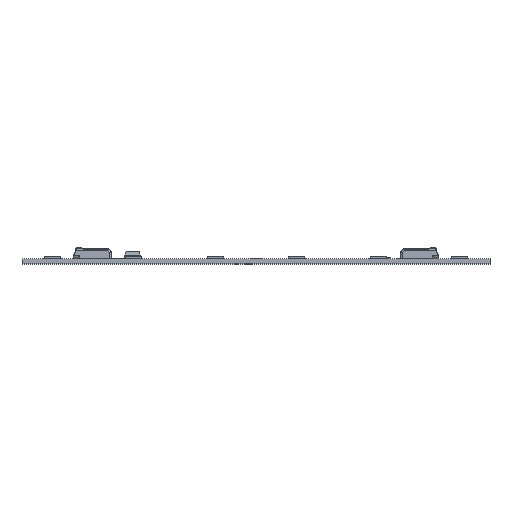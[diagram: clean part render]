
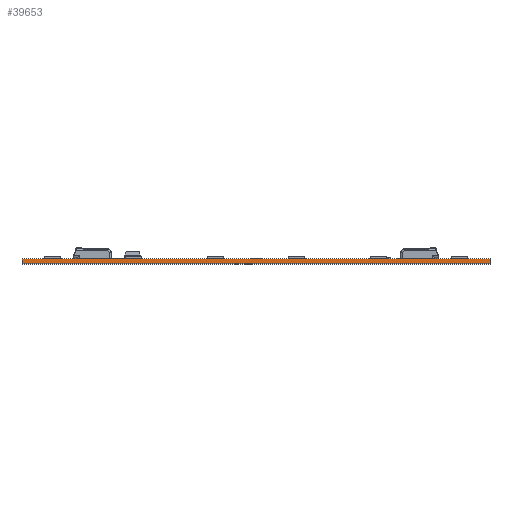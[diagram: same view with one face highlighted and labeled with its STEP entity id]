
A CAD part, top view. The second image highlights one B-rep face of the part: STEP entity #39653.
In plain terms, the highlighted planar face has unit normal (0, 0, 1).
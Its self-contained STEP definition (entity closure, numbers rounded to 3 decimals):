
#3243 = CARTESIAN_POINT ( 'NONE',  ( 0., -1.5, 0. ) ) ;
#9524 = EDGE_CURVE ( 'NONE', #81738, #76849, #124875, .T. ) ;
#14232 = FACE_OUTER_BOUND ( 'NONE', #25141, .T. ) ;
#25141 = EDGE_LOOP ( 'NONE', ( #81105, #45026, #141190, #80554 ) ) ;
#31820 = CARTESIAN_POINT ( 'NONE',  ( 0., -1.5, 0. ) ) ;
#32743 = DIRECTION ( 'NONE',  ( -1., 0., 0. ) ) ;
#34686 = LINE ( 'NONE', #83641, #48514 ) ;
#37004 = PLANE ( 'NONE',  #108765 ) ;
#37134 = DIRECTION ( 'NONE',  ( 0., 1., 0. ) ) ;
#37455 = EDGE_CURVE ( 'NONE', #89243, #76849, #54568, .T. ) ;
#39653 = ADVANCED_FACE ( 'NONE', ( #14232 ), #37004, .F. ) ;
#45026 = ORIENTED_EDGE ( 'NONE', *, *, #9524, .F. ) ;
#48514 = VECTOR ( 'NONE', #137851, 1000. ) ;
#52715 = DIRECTION ( 'NONE',  ( -1., 0., 0. ) ) ;
#54568 = LINE ( 'NONE', #72089, #80322 ) ;
#59199 = CARTESIAN_POINT ( 'NONE',  ( 0., -1.5, 0. ) ) ;
#70001 = VECTOR ( 'NONE', #37134, 1000. ) ;
#71223 = EDGE_CURVE ( 'NONE', #99584, #89243, #34686, .T. ) ;
#71327 = CARTESIAN_POINT ( 'NONE',  ( 0., 0., 0. ) ) ;
#72089 = CARTESIAN_POINT ( 'NONE',  ( 0., 0., 0. ) ) ;
#76849 = VERTEX_POINT ( 'NONE', #71327 ) ;
#78255 = EDGE_CURVE ( 'NONE', #99584, #81738, #128622, .T. ) ;
#78634 = CARTESIAN_POINT ( 'NONE',  ( 0., -1.5, 0. ) ) ;
#80322 = VECTOR ( 'NONE', #52715, 1000. ) ;
#80554 = ORIENTED_EDGE ( 'NONE', *, *, #71223, .T. ) ;
#81105 = ORIENTED_EDGE ( 'NONE', *, *, #37455, .T. ) ;
#81738 = VERTEX_POINT ( 'NONE', #78634 ) ;
#83641 = CARTESIAN_POINT ( 'NONE',  ( 146., -1.5, 0. ) ) ;
#89243 = VERTEX_POINT ( 'NONE', #111075 ) ;
#92288 = DIRECTION ( 'NONE',  ( 0., 0., -1. ) ) ;
#99584 = VERTEX_POINT ( 'NONE', #104273 ) ;
#104273 = CARTESIAN_POINT ( 'NONE',  ( 146., -1.5, 0. ) ) ;
#108765 = AXIS2_PLACEMENT_3D ( 'NONE', #59199, #92288, #135999 ) ;
#111075 = CARTESIAN_POINT ( 'NONE',  ( 146., 0., 0. ) ) ;
#124875 = LINE ( 'NONE', #3243, #70001 ) ;
#125175 = VECTOR ( 'NONE', #32743, 1000. ) ;
#128622 = LINE ( 'NONE', #31820, #125175 ) ;
#135999 = DIRECTION ( 'NONE',  ( -1., 0., 0. ) ) ;
#137851 = DIRECTION ( 'NONE',  ( 0., 1., 0. ) ) ;
#141190 = ORIENTED_EDGE ( 'NONE', *, *, #78255, .F. ) ;
